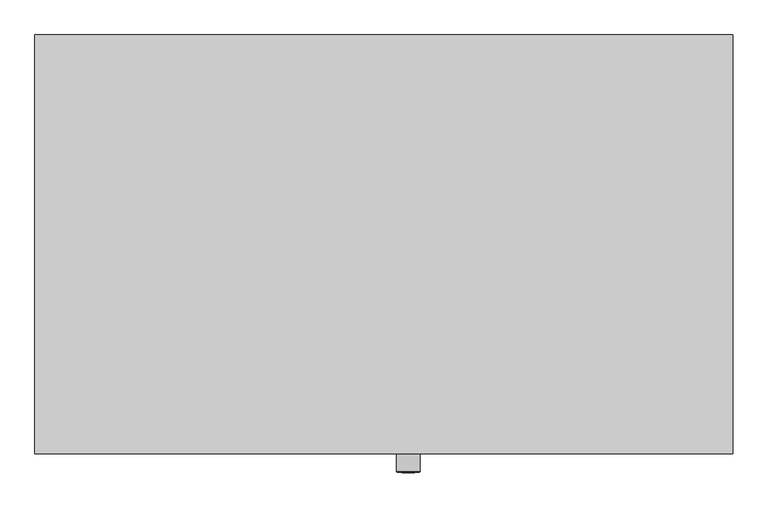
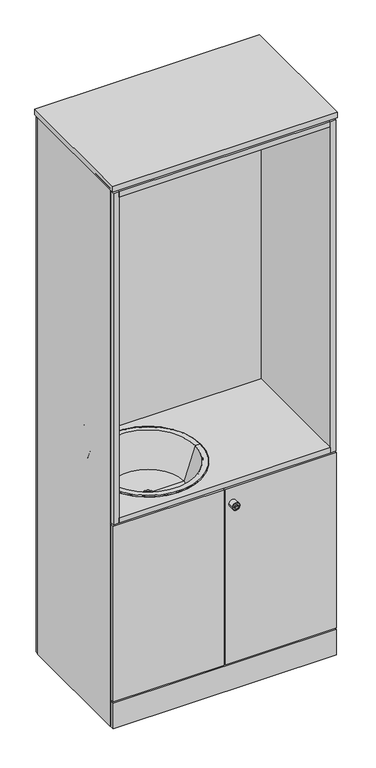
"""IFC4 building model written with IfcOpenShell, lengths in millimetres: furniture geometry, Furniture_Storage_Spacestor_SignatureStoragewall : Teapoint Wakeup."""

import ifcopenshell
import ifcopenshell.guid

model = None  # the IFC model being written
_history = None  # IfcOwnerHistory: only IFC2X3 demands one
_inside = {}  # id of a spatial element -> (the spatial element, [elements in it])
_under = {}  # id of a project, library or spatial element -> (it, [spatial elements below it])
_declared = {}  # id of a project -> (the project, [libraries it declares])
_typed = {}  # id of a type object -> (the type object, [elements of that type])
_made_of = {}  # id of a material, layer set ... -> (it, [elements and type objects made of it])


def new_model(schema):
    """Start an empty IFC model of exactly this schema.

    Asked for "IFC4X3", IfcOpenShell would pick the latest addendum, in which some entities
    have other attributes; the version numbers below select the first issue.
    IFC2X3 requires an IfcOwnerHistory on every rooted entity: one is made here for all.
    """
    global model, _history
    if schema == "IFC4X3":
        model = ifcopenshell.file(schema_version=(4, 3, 0, 0))
    else:
        model = ifcopenshell.file(schema=schema)
    _inside.clear()
    _under.clear()
    _declared.clear()
    _typed.clear()
    _made_of.clear()
    _history = None
    if model.schema == "IFC2X3":
        org = make("IfcOrganization", Name="unknown")
        user = make(
            "IfcPersonAndOrganization",
            ThePerson=make("IfcPerson", FamilyName="unknown"),
            TheOrganization=org,
        )
        app = make(
            "IfcApplication",
            ApplicationDeveloper=org,
            Version="unknown",
            ApplicationFullName="unknown",
            ApplicationIdentifier="unknown",
        )
        _history = make(
            "IfcOwnerHistory",
            OwningUser=user,
            OwningApplication=app,
            ChangeAction="ADDED",
            CreationDate=0,
        )
    return model


def make(cls, **values):
    """One entity of the class cls with the attributes given. An attribute that is None is left unset."""
    return model.create_entity(
        cls, **{name: value for name, value in values.items() if value is not None}
    )


def rooted(cls, **values):
    """An entity with a GlobalId (a new one), such as an element, a storey or a relation."""
    return make(cls, GlobalId=ifcopenshell.guid.new(), OwnerHistory=_history, **values)


def si_unit(unit_type, name, prefix=None):
    """IfcSIUnit, for example si_unit("LENGTHUNIT", "METRE", prefix="MILLI")."""
    return make("IfcSIUnit", UnitType=unit_type, Prefix=prefix, Name=name)


def assignment(units):
    """IfcUnitAssignment: the units of a project."""
    return None if units is None else make("IfcUnitAssignment", Units=units)


def point(xyz):
    """IfcCartesianPoint."""
    return None if xyz is None else make("IfcCartesianPoint", Coordinates=xyz)


def direction(xyz):
    """IfcDirection."""
    return None if xyz is None else make("IfcDirection", DirectionRatios=xyz)


def frame(location, z_axis=None, x_axis=None):
    """IfcAxis2Placement3D, a coordinate frame: its origin and axes. An axis left out is left unset."""
    return make(
        "IfcAxis2Placement3D",
        Location=point(location),
        Axis=direction(z_axis),
        RefDirection=direction(x_axis),
    )


def frame_2d(location, x_axis=None):
    """IfcAxis2Placement2D, a coordinate frame in the plane: its origin and x axis."""
    return make(
        "IfcAxis2Placement2D", Location=point(location), RefDirection=direction(x_axis)
    )


def origin():
    """The frame at (0, 0, 0) with its axes left unset."""
    return frame((0.0, 0.0, 0.0))


def origin_with_axes():
    """The frame at (0, 0, 0) with the z axis (0, 0, 1) and the x axis (1, 0, 0) written out."""
    return frame((0.0, 0.0, 0.0), z_axis=(0.0, 0.0, 1.0), x_axis=(1.0, 0.0, 0.0))


def place(relative_to, where):
    """IfcLocalPlacement: puts the frame where relative to a parent placement (None: the world)."""
    return make(
        "IfcLocalPlacement", PlacementRelTo=relative_to, RelativePlacement=where
    )


def context(
    kind, dimensions, precision=None, world=None, true_north=None, identifier=None
):
    """IfcGeometricRepresentationContext, for example the 3D "Model" context."""
    return make(
        "IfcGeometricRepresentationContext",
        ContextIdentifier=identifier,
        ContextType=kind,
        CoordinateSpaceDimension=dimensions,
        Precision=precision,
        WorldCoordinateSystem=world,
        TrueNorth=true_north,
    )


def project(units=None, contexts=None):
    """IfcProject with its units and contexts."""
    return rooted(
        "IfcProject",
        Name="project",
        RepresentationContexts=contexts,
        UnitsInContext=assignment(units),
    )


def spatial(cls, under=None, at=None, **own):
    """A site, building, storey or space (cls), placed at a placement, below another one or the project."""
    s = rooted(cls, ObjectPlacement=at, **own)
    if under is not None:
        _under.setdefault(under.id(), (under, []))[1].append(s)
    return s


def polyline(points):
    """IfcPolyline through the points."""
    return make("IfcPolyline", Points=[point(p) for p in points])


def circle_curve(where, radius):
    """IfcCircle in the frame where."""
    return make("IfcCircle", Position=where, Radius=radius)


def ellipse_curve(where, semi_axis1, semi_axis2):
    """IfcEllipse in the frame where."""
    return make(
        "IfcEllipse", Position=where, SemiAxis1=semi_axis1, SemiAxis2=semi_axis2
    )


def trimmed(basis, trim1, trim2, sense, master):
    """IfcTrimmedCurve: the piece of a basis curve between two trims."""
    return make(
        "IfcTrimmedCurve",
        BasisCurve=basis,
        Trim1=trim1,
        Trim2=trim2,
        SenseAgreement=sense,
        MasterRepresentation=master,
    )


def segment(curve, same_sense, transition):
    """IfcCompositeCurveSegment."""
    return make(
        "IfcCompositeCurveSegment",
        Transition=transition,
        SameSense=same_sense,
        ParentCurve=curve,
    )


def composite_curve(segments, self_intersect=None):
    """IfcCompositeCurve: segments joined end to end."""
    return make("IfcCompositeCurve", Segments=segments, SelfIntersect=self_intersect)


def outline(outer, holes=None, kind="AREA"):
    """IfcArbitraryClosedProfileDef: a profile drawn as a closed curve; with holes, ...WithVoids."""
    if holes is None:
        return make("IfcArbitraryClosedProfileDef", ProfileType=kind, OuterCurve=outer)
    return make(
        "IfcArbitraryProfileDefWithVoids",
        ProfileType=kind,
        OuterCurve=outer,
        InnerCurves=holes,
    )


def extrude(swept, where, along, depth):
    """IfcExtrudedAreaSolid: the profile swept, set in the frame where, extruded along a direction by depth."""
    return make(
        "IfcExtrudedAreaSolid",
        SweptArea=swept,
        Position=where,
        ExtrudedDirection=direction(along),
        Depth=depth,
    )


def shape(context_of_items, identifier, shape_type, items):
    """IfcShapeRepresentation: the items that make up one representation, for example the "Body"."""
    return make(
        "IfcShapeRepresentation",
        ContextOfItems=context_of_items,
        RepresentationIdentifier=identifier,
        RepresentationType=shape_type,
        Items=items,
    )


def source(mapping_origin, context_of_items, identifier, shape_type, items):
    """IfcRepresentationMap: a shape defined once, which mapped items show again and again."""
    return make(
        "IfcRepresentationMap",
        MappingOrigin=mapping_origin,
        MappedRepresentation=shape(context_of_items, identifier, shape_type, items),
    )


def transform(
    local_origin,
    x_axis=None,
    y_axis=None,
    z_axis=None,
    scale=None,
    scale2=None,
    scale3=None,
    uniform=True,
):
    """IfcCartesianTransformationOperator3D, or its non-uniform kind. x_axis, y_axis, z_axis: its Axis1, 2, 3."""
    if uniform:
        return make(
            "IfcCartesianTransformationOperator3D",
            Axis1=direction(x_axis),
            Axis2=direction(y_axis),
            LocalOrigin=point(local_origin),
            Scale=scale,
            Axis3=direction(z_axis),
        )
    return make(
        "IfcCartesianTransformationOperator3DnonUniform",
        Axis1=direction(x_axis),
        Axis2=direction(y_axis),
        LocalOrigin=point(local_origin),
        Scale=scale,
        Axis3=direction(z_axis),
        Scale2=scale2,
        Scale3=scale3,
    )


def mapped(mapping_source, mapping_target):
    """IfcMappedItem: shows the shape of a source again, moved by a transform."""
    return make(
        "IfcMappedItem", MappingSource=mapping_source, MappingTarget=mapping_target
    )


def made_of(thing, what):
    """Note that an element or type object is made of a material, layer set ...; save() writes the relation."""
    if what is not None:
        _made_of.setdefault(what.id(), (what, []))[1].append(thing)
    return thing


def element(
    cls,
    number,
    at=None,
    inside=None,
    cuts=None,
    type_object=None,
    material=None,
    context=None,
    identifier="Body",
    shape_type=None,
    held_by="IfcProductDefinitionShape",
    body=None,
    shapes=None,
    **own,
):
    """One element of the class cls, such as IfcWall. Its Tag is "e" and its number.

    at: its placement. inside: the storey or other place that contains it. cuts: it is an
    opening in that element (IfcRelVoidsElement). A single representation is given by context,
    identifier, shape_type and body (its items); several are given by shapes. held_by: the class
    of the entity that holds the representations. save() writes the other relations.
    """
    e = rooted(cls, Tag="e%d" % number, ObjectPlacement=at, **own)
    if body is not None:
        shapes = [shape(context, identifier, shape_type, body)]
    if shapes is not None:
        e.Representation = make(held_by, Representations=shapes)
    if inside is not None:
        _inside.setdefault(inside.id(), (inside, []))[1].append(e)
    if cuts is not None:
        rooted(
            "IfcRelVoidsElement", RelatingBuildingElement=cuts, RelatedOpeningElement=e
        )
    if type_object is not None:
        _typed.setdefault(type_object.id(), (type_object, []))[1].append(e)
    return made_of(e, material)


def aggregate(whole, parts):
    """IfcRelAggregates: a whole, such as a stair, and the parts it consists of."""
    return rooted("IfcRelAggregates", RelatingObject=whole, RelatedObjects=parts)


def save(model, path):
    """Write the relations noted so far, then the file.

    IfcRelAggregates (storeys below a building ...), IfcRelContainedInSpatialStructure (elements
    in a storey), IfcRelDefinesByType, IfcRelAssociatesMaterial and IfcRelDeclares: one each for
    every whole, place, type object, material and project.
    """
    for whole, parts in _under.values():
        aggregate(whole, parts)
    for where, things in _inside.values():
        rooted(
            "IfcRelContainedInSpatialStructure",
            RelatedElements=things,
            RelatingStructure=where,
        )
    for kind, things in _typed.values():
        rooted("IfcRelDefinesByType", RelatedObjects=things, RelatingType=kind)
    for what, things in _made_of.values():
        rooted("IfcRelAssociatesMaterial", RelatedObjects=things, RelatingMaterial=what)
    for by, libraries in _declared.values():
        rooted("IfcRelDeclares", RelatingContext=by, RelatedDefinitions=libraries)
    model.write(path)


def plane_surface(at):
    """IfcPlane: the flat surface through the origin of the frame at, square to its z axis."""
    return make("IfcPlane", Position=at)


def cylinder_surface(at, radius):
    """IfcCylindricalSurface: all points at the distance radius from the z axis of the frame at."""
    return make("IfcCylindricalSurface", Position=at, Radius=radius)


def revolved_surface(curve, axis_point, axis_direction):
    """IfcSurfaceOfRevolution: the curve turned about the line through axis_point along axis_direction."""
    return make(
        "IfcSurfaceOfRevolution",
        SweptCurve=make("IfcArbitraryOpenProfileDef", ProfileType="CURVE", Curve=curve),
        AxisPosition=make("IfcAxis1Placement", Location=point(axis_point), Axis=direction(axis_direction)),
    )


def advanced_brep(points, edges, surfaces, faces):
    """IfcAdvancedBrep: a solid bounded by faces that lie on surfaces and meet in shared edges.

    An edge is (start, end): straight between two places in points (the first is 0);
    or (start, end, curve); or (start, end, curve, False) where it runs against its curve.
    A face is (place in surfaces, loops), or (place, loops, False) where it looks against
    its surface's normal. A loop lists edges by number (the first is 1), with a minus sign
    where the edge is run from its end to its start. The first loop is the outer one.
    """
    corners = [point(p) for p in points]
    vertices = [make("IfcVertexPoint", VertexGeometry=c) for c in corners]
    made = []
    for start, end, *more in edges:
        made.append(
            make(
                "IfcEdgeCurve",
                EdgeStart=vertices[start],
                EdgeEnd=vertices[end],
                EdgeGeometry=more[0] if more else make("IfcPolyline", Points=[corners[start], corners[end]]),
                SameSense=more[1] if len(more) > 1 else True,
            )
        )
    hull = []
    for where, loops, *sense in faces:
        bounds = []
        for j, loop in enumerate(loops):
            ring = [make("IfcOrientedEdge", EdgeElement=made[abs(k) - 1], Orientation=k > 0) for k in loop]
            bounds.append(
                make(
                    "IfcFaceOuterBound" if j == 0 else "IfcFaceBound",
                    Bound=make("IfcEdgeLoop", EdgeList=ring),
                    Orientation=True,
                )
            )
        hull.append(make("IfcAdvancedFace", Bounds=bounds, FaceSurface=surfaces[where], SameSense=sense[0] if sense else True))
    return make("IfcAdvancedBrep", Outer=make("IfcClosedShell", CfsFaces=hull))


def furniture_b352a6ba(model_context):
    return source(origin(), model_context, "Body", "SolidModel", [
        extrude(outline(polyline([(996.5, 559.0), (3.5, 559.0), (3.5, 577.0), (996.5, 577.0), (996.5, 559.0)])), origin_with_axes(), (0.0, 0.0, 1.0), 2518.0),
        extrude(outline(polyline([(996.5, -18.0), (3.5, -18.0), (3.5, 0.0), (996.5, 0.0), (996.5, -18.0)])), origin_with_axes(), (0.0, 0.0, 1.0), 118.0),
        extrude(outline(polyline([(1000.0, -20.5), (0.0, -20.5), (0.0, 579.5), (1000.0, 579.5), (1000.0, -20.5)])), frame((0.0, 0.0, 2525.0), z_axis=(0.0, 0.0, 1.0), x_axis=(1.0, 0.0, 0.0)), (0.0, 0.0, 1.0), 25.5),
        extrude(outline(polyline([(1000.0, 0.0), (989.0, 0.0), (989.0, 559.0), (1000.0, 559.0), (1000.0, 0.0)])), origin_with_axes(), (0.0, 0.0, 1.0), 2532.5),
        extrude(outline(polyline([(11.0, 0.0), (0.0, 0.0), (0.0, 559.0), (11.0, 559.0), (11.0, 0.0)])), origin_with_axes(), (0.0, 0.0, 1.0), 2532.5),
        extrude(outline(polyline([(989.0, 0.0), (11.0, 0.0), (11.0, 30.0), (989.0, 30.0), (989.0, 0.0)])), frame((0.0, 0.0, 942.5), z_axis=(0.0, 0.0, 1.0), x_axis=(1.0, 0.0, 0.0)), (0.0, 0.0, 1.0), 22.0),
        extrude(outline(polyline([(989.0, 0.0), (11.0, 0.0), (11.0, 559.0), (989.0, 559.0), (989.0, 0.0)])), frame((0.0, 0.0, 110.5), z_axis=(0.0, 0.0, 1.0), x_axis=(1.0, 0.0, 0.0)), (0.0, 0.0, 1.0), 22.0),
        extrude(outline(polyline([(989.0, 0.0), (11.0, 0.0), (11.0, 559.0), (989.0, 559.0), (989.0, 0.0)])), frame((0.0, 0.0, 2510.0), z_axis=(0.0, 0.0, 1.0), x_axis=(1.0, 0.0, 0.0)), (0.0, 0.0, 1.0), 22.0),
        advanced_brep(
        [(332.5958962, 249.0, 832.5), (292.5958962, 249.0, 832.5), (149.3768499, 249.0, 832.5), (475.8149424, 249.0, 832.5), (472.2083379, 249.0, 837.5), (152.9834544, 249.0, 837.5), (292.5958962, 249.0, 837.5), (332.5958962, 249.0, 837.5), (522.0851879, 249.0, 987.5), (103.1066044, 249.0, 987.5), (544.5958962, 249.0, 987.5), (80.5958962, 249.0, 987.5), (547.5958962, 249.0, 984.5), (77.5958962, 249.0, 984.5), (547.5958962, 249.0, 982.5), (77.5958962, 249.0, 982.5), (525.6917923, 249.0, 982.5), (99.5, 249.0, 982.5)],
        [
            (0, 1, circle_curve(frame((312.5958962, 249.0, 832.5), z_axis=(0.0, 0.0, 1.0), x_axis=(-1.0, 0.0, 0.0)), 20.0)),
            (1, 2),
            (2, 3, circle_curve(frame((312.5958962, 249.0, 832.5), z_axis=(0.0, 0.0, -1.0), x_axis=(-1.0, 0.0, 0.0)), 163.2190462)),
            (3, 0),
            (1, 0, circle_curve(frame((312.5958962, 249.0, 832.5), z_axis=(0.0, 0.0, 1.0), x_axis=(-1.0, 0.0, 0.0)), 20.0)),
            (3, 2, circle_curve(frame((312.5958962, 249.0, 832.5), z_axis=(0.0, 0.0, -1.0), x_axis=(-1.0, 0.0, 0.0)), 163.2190462)),
            (4, 5, circle_curve(frame((312.5958962, 249.0, 837.5), z_axis=(0.0, 0.0, 1.0), x_axis=(-1.0, 0.0, 0.0)), 159.6124418)),
            (5, 6),
            (6, 7, circle_curve(frame((312.5958962, 249.0, 837.5), z_axis=(0.0, 0.0, -1.0), x_axis=(-1.0, 0.0, 0.0)), 20.0)),
            (7, 4),
            (5, 4, circle_curve(frame((312.5958962, 249.0, 837.5), z_axis=(0.0, 0.0, 1.0), x_axis=(-1.0, 0.0, 0.0)), 159.6124418)),
            (7, 6, circle_curve(frame((312.5958962, 249.0, 837.5), z_axis=(0.0, 0.0, -1.0), x_axis=(-1.0, 0.0, 0.0)), 20.0)),
            (8, 9, circle_curve(frame((312.5958962, 249.0, 987.5), z_axis=(0.0, 0.0, 1.0), x_axis=(-1.0, 0.0, 0.0)), 209.4892917)),
            (9, 5),
            (4, 8),
            (9, 8, circle_curve(frame((312.5958962, 249.0, 987.5), z_axis=(0.0, 0.0, 1.0), x_axis=(-1.0, 0.0, 0.0)), 209.4892917)),
            (10, 11, circle_curve(frame((312.5958962, 249.0, 987.5), z_axis=(0.0, 0.0, 1.0), x_axis=(-1.0, 0.0, 0.0)), 232.0)),
            (11, 9),
            (8, 10),
            (11, 10, circle_curve(frame((312.5958962, 249.0, 987.5), z_axis=(0.0, 0.0, 1.0), x_axis=(-1.0, 0.0, 0.0)), 232.0)),
            (12, 13, circle_curve(frame((312.5958962, 249.0, 984.5), z_axis=(0.0, 0.0, 1.0), x_axis=(-1.0, 0.0, 0.0)), 235.0)),
            (13, 11, circle_curve(frame((80.5958962, 249.0, 984.5), z_axis=(0.0, 1.0, 0.0), x_axis=(1.0, 0.0, 0.0)), 3.0)),
            (10, 12, circle_curve(frame((544.5958962, 249.0, 984.5), z_axis=(0.0, 1.0, 0.0), x_axis=(-1.0, 0.0, 0.0)), 3.0)),
            (13, 12, circle_curve(frame((312.5958962, 249.0, 984.5), z_axis=(0.0, 0.0, 1.0), x_axis=(-1.0, 0.0, 0.0)), 235.0)),
            (14, 15, circle_curve(frame((312.5958962, 249.0, 982.5), z_axis=(0.0, 0.0, 1.0), x_axis=(-1.0, 0.0, 0.0)), 235.0)),
            (15, 13),
            (12, 14),
            (15, 14, circle_curve(frame((312.5958962, 249.0, 982.5), z_axis=(0.0, 0.0, 1.0), x_axis=(-1.0, 0.0, 0.0)), 235.0)),
            (16, 17, circle_curve(frame((312.5958962, 249.0, 982.5), z_axis=(0.0, 0.0, 1.0), x_axis=(-1.0, 0.0, 0.0)), 213.0958962)),
            (17, 15),
            (14, 16),
            (17, 16, circle_curve(frame((312.5958962, 249.0, 982.5), z_axis=(0.0, 0.0, 1.0), x_axis=(-1.0, 0.0, 0.0)), 213.0958962)),
            (2, 17),
            (16, 3),
            (6, 1),
            (0, 7),
        ],
        [
            plane_surface(frame((312.5958962, 249.0, 832.5), z_axis=(0.0, 0.0, -1.0), x_axis=(-1.0, 0.0, 0.0))),
            plane_surface(frame((312.5958962, 249.0, 837.5), z_axis=(0.0, 0.0, 1.0), x_axis=(-1.0, 0.0, 0.0))),
            revolved_surface(polyline([(152.9834544, 249.0, 837.5), (103.1066044, 249.0, 987.5)]), (312.5958962, 249.0, 2979.9144888), (0.0, 0.0, -1.0)),
            plane_surface(frame((312.5958962, 249.0, 987.5), z_axis=(0.0, 0.0, 1.0), x_axis=(-1.0, 0.0, 0.0))),
            revolved_surface(trimmed(ellipse_curve(frame((80.5958962, 249.0, 984.5), z_axis=(0.0, -1.0, 0.0), x_axis=(1.0, 0.0, 0.0)), 3.0, 3.0), [point((80.5958962, 249.0, 987.5))], [point((77.5958962, 249.0, 984.5))], True, "CARTESIAN"), (312.5958962, 249.0, 2979.9144888), (0.0, 0.0, -1.0)),
            cylinder_surface(frame((312.5958962, 249.0, 2979.9144888), z_axis=(0.0, 0.0, -1.0), x_axis=(-1.0, 0.0, 0.0)), 235.0),
            plane_surface(frame((312.5958962, 249.0, 982.5), z_axis=(0.0, 0.0, -1.0), x_axis=(-1.0, 0.0, 0.0))),
            revolved_surface(polyline([(99.5, 249.0, 982.5), (149.3768499, 249.0, 832.5)]), (312.5958962, 249.0, 2979.9144888), (0.0, 0.0, -1.0)),
            revolved_surface(polyline([(292.5958962, 249.0, 832.5), (292.5958962, 249.0, 837.5)]), (312.5958962, 249.0, 2979.9144888), (0.0, 0.0, -1.0)),
        ],
        [
            (0, [[1, 2, 3, 4]]),
            (0, [[5, -4, 6, -2]]),
            (1, [[7, 8, 9, 10]]),
            (1, [[11, -10, 12, -8]]),
            (2, [[13, 14, -7, 15]]),
            (2, [[16, -15, -11, -14]]),
            (3, [[17, 18, -13, 19]]),
            (3, [[20, -19, -16, -18]]),
            (4, [[21, 22, -17, 23]]),
            (4, [[24, -23, -20, -22]]),
            (5, [[25, 26, -21, 27]]),
            (5, [[28, -27, -24, -26]]),
            (6, [[29, 30, -25, 31]]),
            (6, [[32, -31, -28, -30]]),
            (7, [[-3, 33, -29, 34]]),
            (7, [[-6, -34, -32, -33]]),
            (8, [[-9, 35, -1, 36]]),
            (8, [[-12, -36, -5, -35]]),
        ],
    ),
        extrude(outline(composite_curve([segment(trimmed(circle_curve(frame_2d((51.6443162, 298.4535162)), 20.0), [point((38.4905847, 313.5193499))], [point((54.012555, 318.3128073))], False, "CARTESIAN"), True, "CONTINUOUS"), segment(trimmed(circle_curve(frame_2d((65.0185837, 324.0001089)), 12.3886265), [point((54.012555, 318.3128073))], [point((66.6155314, 311.7148402))], True, "CARTESIAN"), True, "CONTINUOUS"), segment(trimmed(circle_curve(frame_2d((51.6443162, 298.4535162)), 20.0), [point((66.6155314, 311.7148402))], [point((71.5144928, 296.1784156))], False, "CARTESIAN"), True, "CONTINUOUS"), segment(trimmed(circle_curve(frame_2d((76.9912793, 285.0661306)), 12.3886265), [point((71.5144928, 296.1784156))], [point((64.7256464, 283.3247753))], True, "CARTESIAN"), True, "CONTINUOUS"), segment(trimmed(circle_curve(frame_2d((51.6443162, 298.4535162)), 20.0), [point((64.7256464, 283.3247753))], [point((49.0219776, 278.626178))], False, "CARTESIAN"), True, "CONTINUOUS"), segment(trimmed(circle_curve(frame_2d((37.9440265, 273.0802726)), 12.3886265), [point((49.0219776, 278.626178))], [point((36.50452, 285.3849826))], True, "CARTESIAN"), True, "CONTINUOUS"), segment(trimmed(circle_curve(frame_2d((51.6443162, 298.4535162)), 20.0), [point((36.50452, 285.3849826))], [point((31.8126259, 301.0427361))], False, "CARTESIAN"), True, "CONTINUOUS"), segment(trimmed(circle_curve(frame_2d((26.1858747, 312.0798434)), 12.3886265), [point((31.8126259, 301.0427361))], [point((38.4905847, 313.5193499))], True, "CARTESIAN"), True, "CONTINUOUS")], self_intersect=False)), frame((0.0, 0.0, 982.5), z_axis=(0.0, 0.0, 1.0), x_axis=(1.0, 0.0, 0.0)), (0.0, 0.0, 1.0), 40.0),
        advanced_brep(
        [(59.2290135, 342.8808735, 982.5), (76.8879654, 333.4914422, 982.5), (59.2290135, 342.8808735, 1182.5), (76.8879654, 333.4914422, 1182.5), (129.864821, 305.3231485, 1182.5), (147.5237728, 295.9337172, 1182.5), (147.5237728, 295.9337172, 1142.5), (129.864821, 305.3231485, 1142.5)],
        [
            (0, 1, circle_curve(frame((68.0584895, 338.1861579, 982.5), z_axis=(0.0, 0.0, -1.0), x_axis=(0.8829475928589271, -0.46947156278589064, 0.0)), 10.0)),
            (1, 0, circle_curve(frame((68.0584895, 338.1861579, 982.5), z_axis=(0.0, 0.0, -1.0), x_axis=(0.8829475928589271, -0.46947156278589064, 0.0)), 10.0)),
            (0, 2),
            (2, 3, circle_curve(frame((68.0584895, 338.1861579, 1182.5), z_axis=(0.0, 0.0, -1.0), x_axis=(0.8829475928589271, -0.46947156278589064, 0.0)), 10.0)),
            (3, 1),
            (3, 2, circle_curve(frame((68.0584895, 338.1861579, 1182.5), z_axis=(0.0, 0.0, -1.0), x_axis=(0.8829475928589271, -0.46947156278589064, 0.0)), 10.0)),
            (4, 3, circle_curve(frame((103.3763932, 319.4072953, 1182.5), z_axis=(-0.46947156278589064, -0.8829475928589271, 0.0), x_axis=(-0.8829475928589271, 0.46947156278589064, 0.0)), 30.0)),
            (2, 5, circle_curve(frame((103.3763932, 319.4072953, 1182.5), z_axis=(0.46947156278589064, 0.8829475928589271, 0.0), x_axis=(-0.8829475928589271, 0.46947156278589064, 0.0)), 50.0)),
            (5, 4, circle_curve(frame((138.6942969, 300.6284328, 1182.5), z_axis=(0.0, 0.0, 1.0000000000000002), x_axis=(-0.8829475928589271, 0.46947156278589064, 0.0)), 10.0)),
            (4, 5, circle_curve(frame((138.6942969, 300.6284328, 1182.5), z_axis=(0.0, 0.0, 1.0000000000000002), x_axis=(-0.8829475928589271, 0.46947156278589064, 0.0)), 10.0)),
            (6, 7, circle_curve(frame((138.6942969, 300.6284328, 1142.5), z_axis=(0.0, 0.0, -1.0), x_axis=(-0.882947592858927, 0.46947156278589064, 0.0)), 10.0)),
            (7, 6, circle_curve(frame((138.6942969, 300.6284328, 1142.5), z_axis=(0.0, 0.0, -1.0), x_axis=(-0.882947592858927, 0.46947156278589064, 0.0)), 10.0)),
            (5, 6),
            (7, 4),
        ],
        [
            plane_surface(frame((-20.6254098, 171.3960015, 982.5), z_axis=(0.0, 0.0, -1.0000000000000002), x_axis=(-0.46947156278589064, -0.8829475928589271, 0.0))),
            cylinder_surface(frame((68.0584895, 338.1861579, 982.5), z_axis=(0.0, 0.0, -1.0000000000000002), x_axis=(0.8829475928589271, -0.46947156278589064, 0.0)), 10.0),
            revolved_surface(trimmed(ellipse_curve(frame((68.0584895, 338.1861579, 1182.5), z_axis=(0.0, 0.0, -1.0000000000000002), x_axis=(0.8829475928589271, -0.46947156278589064, 0.0)), 10.0, 10.0), [point((59.2290135, 342.8808735, 1182.5))], [point((76.8879654, 333.4914422, 1182.5))], True, "CARTESIAN"), (14.6924939, 152.617139, 1182.5), (0.46947156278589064, 0.8829475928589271, 0.0)),
            revolved_surface(trimmed(ellipse_curve(frame((68.0584895, 338.1861579, 1182.5), z_axis=(0.0, 0.0, -1.0000000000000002), x_axis=(0.8829475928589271, -0.46947156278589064, 0.0)), 10.0, 10.0), [point((76.8879654, 333.4914422, 1182.5))], [point((59.2290135, 342.8808735, 1182.5))], True, "CARTESIAN"), (14.6924939, 152.617139, 1182.5), (0.46947156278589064, 0.8829475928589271, 0.0)),
            plane_surface(frame((50.0103976, 133.8382765, 1142.5), z_axis=(0.0, 0.0, -1.0), x_axis=(-0.46947156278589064, -0.882947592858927, 0.0))),
            cylinder_surface(frame((138.6942969, 300.6284328, 1182.5), z_axis=(0.0, 0.0, 1.0), x_axis=(-0.882947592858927, 0.46947156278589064, 0.0)), 10.0),
        ],
        [
            (0, [[1, 2]]),
            (1, [[-1, 3, 4, 5]]),
            (1, [[-2, -5, 6, -3]]),
            (2, [[7, -4, 8, 9]]),
            (3, [[-8, -6, -7, 10]]),
            (4, [[11, 12]]),
            (5, [[-9, 13, -12, 14]]),
            (5, [[-10, -14, -11, -13]]),
        ],
    ),
        extrude(outline(polyline([(970.5, 516.0), (970.5, -18.0), (29.5, -18.0), (29.5, 516.0), (970.5, 516.0)]), holes=[composite_curve([segment(trimmed(circle_curve(frame_2d((312.6, 249.0)), 213.1), [point((99.5, 249.0))], [point((525.7, 249.0))], True, "CARTESIAN"), True, "CONTINUOUS"), segment(trimmed(circle_curve(frame_2d((312.6, 249.0)), 213.1), [point((525.7, 249.0))], [point((99.5, 249.0))], True, "CARTESIAN"), True, "CONTINUOUS")], self_intersect=False)]), frame((0.0, 0.0, 957.5), z_axis=(0.0, 0.0, 1.0), x_axis=(1.0, 0.0, 0.0)), (0.0, 0.0, 1.0), 25.0),
        extrude(outline(polyline([(29.5, -18.0), (4.5, -18.0), (4.5, 516.0), (29.5, 516.0), (29.5, -18.0)])), frame((0.0, 0.0, 957.0), z_axis=(0.0, 0.0, 1.0), x_axis=(1.0, 0.0, 0.0)), (0.0, 0.0, 1.0), 1559.0),
        extrude(outline(polyline([(995.5, -18.0), (970.5, -18.0), (970.5, 516.0), (995.5, 516.0), (995.5, -18.0)])), frame((0.0, 0.0, 957.0), z_axis=(0.0, 0.0, 1.0), x_axis=(1.0, 0.0, 0.0)), (0.0, 0.0, 1.0), 1559.0),
        extrude(outline(polyline([(995.5, 516.0), (4.5, 516.0), (4.5, 534.0), (995.5, 534.0), (995.5, 516.0)])), frame((0.0, 0.0, 957.0), z_axis=(0.0, 0.0, 1.0), x_axis=(1.0, 0.0, 0.0)), (0.0, 0.0, 1.0), 1559.0),
        extrude(outline(polyline([(970.5, -18.0), (29.5, -18.0), (29.5, 516.0), (970.5, 516.0), (970.5, -18.0)])), frame((0.0, 0.0, 2490.5), z_axis=(0.0, 0.0, 1.0), x_axis=(1.0, 0.0, 0.0)), (0.0, 0.0, 1.0), 25.0),
        extrude(outline(polyline([(3.5, -18.0), (3.5, 0.0), (496.5, 0.0), (496.5, -18.0), (3.5, -18.0)])), frame((0.0, 0.0, 125.0), z_axis=(0.0, 0.0, 1.0), x_axis=(1.0, 0.0, 0.0)), (0.0, 0.0, 1.0), 825.0),
        extrude(outline(polyline([(996.5, -18.0), (503.5, -18.0), (503.5, 0.0), (996.5, 0.0), (996.5, -18.0)])), frame((0.0, 0.0, 125.0), z_axis=(0.0, 0.0, 1.0), x_axis=(1.0, 0.0, 0.0)), (0.0, 0.0, 1.0), 825.0),
        advanced_brep(
        [(552.0, -45.3116344, 875.0), (518.0, -45.3116344, 875.0), (518.0, -18.0, 875.0), (552.0, -18.0, 875.0), (535.0, -18.0, 875.0), (543.9747319, -46.3150077, 875.0), (526.0252681, -46.3150077, 875.0), (519.0033734, -46.3150077, 875.0), (550.9966266, -46.3150077, 875.0), (543.9747319, -47.4703043, 875.0), (526.0252681, -47.4703043, 875.0), (539.8245152, -47.4703043, 875.0), (539.8245152, -47.4703043, 873.6366562), (530.1754848, -47.4703043, 873.6366562), (530.1754848, -47.4703043, 875.0), (530.1754848, -47.4703043, 876.3633438), (539.8245152, -47.4703043, 876.3633438), (530.1754848, -27.8604291, 873.6366562), (539.8245152, -27.8604291, 873.6366562), (539.8245152, -27.8604291, 876.3633438), (530.1754848, -27.8604291, 876.3633438)],
        [
            (0, 1, circle_curve(frame((535.0, -45.3116344, 875.0), z_axis=(0.0, 1.0, 0.0), x_axis=(-1.0, 0.0, 0.0)), 17.0)),
            (1, 2),
            (2, 3, circle_curve(frame((535.0, -18.0, 875.0), z_axis=(0.0, -1.0, 0.0), x_axis=(-1.0, 0.0, 0.0)), 17.0)),
            (3, 0),
            (1, 0, circle_curve(frame((535.0, -45.3116344, 875.0), z_axis=(0.0, 1.0, 0.0), x_axis=(-1.0, 0.0, 0.0)), 17.0)),
            (3, 2, circle_curve(frame((535.0, -18.0, 875.0), z_axis=(0.0, -1.0, 0.0), x_axis=(-1.0, 0.0, 0.0)), 17.0)),
            (2, 4),
            (4, 3),
            (5, 6, circle_curve(frame((535.0, -46.3150077, 875.0), z_axis=(0.0, 1.0, 0.0), x_axis=(-1.0, 0.0, 0.0)), 8.9747319)),
            (6, 7),
            (7, 8, circle_curve(frame((535.0, -46.3150077, 875.0), z_axis=(0.0, -1.0, 0.0), x_axis=(-1.0, 0.0, 0.0)), 15.9966266)),
            (8, 5),
            (6, 5, circle_curve(frame((535.0, -46.3150077, 875.0), z_axis=(0.0, 1.0, 0.0), x_axis=(-1.0, 0.0, 0.0)), 8.9747319)),
            (8, 7, circle_curve(frame((535.0, -46.3150077, 875.0), z_axis=(0.0, -1.0, 0.0), x_axis=(-1.0, 0.0, 0.0)), 15.9966266)),
            (0, 8, circle_curve(frame((550.9966266, -45.3116344, 875.0), z_axis=(0.0, 0.0, -1.0), x_axis=(1.0, 0.0, 0.0)), 1.0033734)),
            (7, 1, circle_curve(frame((519.0033734, -45.3116344, 875.0), z_axis=(0.0, 0.0, -1.0), x_axis=(-1.0, 0.0, 0.0)), 1.0033734)),
            (5, 9),
            (9, 10, circle_curve(frame((535.0, -47.4703043, 875.0), z_axis=(0.0, 1.0, 0.0), x_axis=(-1.0, 0.0, 0.0)), 8.9747319)),
            (10, 6),
            (10, 9, circle_curve(frame((535.0, -47.4703043, 875.0), z_axis=(0.0, 1.0, 0.0), x_axis=(-1.0, 0.0, 0.0)), 8.9747319)),
            (9, 11),
            (11, 12),
            (12, 13),
            (13, 14),
            (14, 10),
            (14, 15),
            (15, 16),
            (16, 11),
            (17, 18),
            (18, 19),
            (19, 20),
            (20, 17),
            (17, 13),
            (12, 18),
            (16, 19),
            (15, 20),
        ],
        [
            cylinder_surface(frame((535.0, -2627.0581012, 875.0), z_axis=(0.0, -1.0, 0.0), x_axis=(-1.0, 0.0, 0.0)), 17.0),
            plane_surface(frame((535.0, -18.0, 875.0), z_axis=(0.0, 1.0, 0.0), x_axis=(-1.0, 0.0, 0.0))),
            plane_surface(frame((535.0, -46.3150077, 875.0), z_axis=(0.0, -1.0, 0.0), x_axis=(-1.0, 0.0, 0.0))),
            revolved_surface(trimmed(ellipse_curve(frame((519.0033734, -45.3116344, 875.0), z_axis=(0.0, 0.0, 1.0), x_axis=(-1.0, 0.0, 0.0)), 1.0033734, 1.0033734), [point((518.0, -45.3116344, 875.0))], [point((519.0033734, -46.3150077, 875.0))], True, "CARTESIAN"), (535.0, -2627.0581012, 875.0), (0.0, -1.0, 0.0)),
            cylinder_surface(frame((535.0, -2627.0581012, 875.0), z_axis=(0.0, -1.0, 0.0), x_axis=(-1.0, 0.0, 0.0)), 8.9747319),
            plane_surface(frame((535.0, -47.4703043, 875.0), z_axis=(0.0, -1.0, 0.0), x_axis=(-1.0, 0.0, 0.0))),
            plane_surface(frame((539.4565249, -27.8604291, 873.6366562), z_axis=(0.0, -1.0, 0.0), x_axis=(-1.0, 0.0, 0.0))),
            plane_surface(frame((530.1754848, -49.2046383, 873.6366562), z_axis=(0.0, 0.0, 1.0), x_axis=(0.0, 1.0, 0.0))),
            plane_surface(frame((539.8245152, -49.2046383, 873.6366562), z_axis=(-1.0, 0.0, 0.0), x_axis=(0.0, 1.0, 0.0))),
            plane_surface(frame((539.8245152, -49.2046383, 876.3633438), z_axis=(0.0, 0.0, -1.0), x_axis=(0.0, 1.0, 0.0))),
            plane_surface(frame((530.1754848, -49.2046383, 876.3633438), z_axis=(1.0, 0.0, 0.0), x_axis=(0.0, 1.0, 0.0))),
        ],
        [
            (0, [[1, 2, 3, 4]]),
            (0, [[-2, 5, -4, 6]]),
            (1, [[-3, 7, 8]]),
            (1, [[-6, -8, -7]]),
            (2, [[9, 10, 11, 12]]),
            (2, [[-10, 13, -12, 14]]),
            (3, [[-1, 15, -11, 16]]),
            (3, [[-5, -16, -14, -15]]),
            (4, [[-9, 17, 18, 19]]),
            (4, [[-13, -19, 20, -17]]),
            (5, [[-18, 21, 22, 23, 24, 25]]),
            (5, [[-20, -25, 26, 27, 28, -21]]),
            (6, [[29, 30, 31, 32]]),
            (7, [[-29, 33, -23, 34]]),
            (8, [[-30, -34, -22, -28, 35]]),
            (9, [[-31, -35, -27, 36]]),
            (10, [[-32, -36, -26, -24, -33]]),
        ],
    ),
    ])


if __name__ == "__main__":
    model = new_model("IFC4")
    model_context = context("Model", 3, world=origin())
    ifc_project = project(units=[si_unit("LENGTHUNIT", "METRE", prefix="MILLI")], contexts=[model_context])
    site = spatial("IfcSite", under=ifc_project)
    building = spatial("IfcBuilding", under=site)
    placement = place(None, origin())
    furniture_shape = furniture_b352a6ba(model_context)
    element("IfcFurniture", 1, ObjectType="Furniture_Storage_Spacestor_SignatureStoragewall : Teapoint Wakeup", at=placement, inside=building, context=model_context, shape_type="MappedRepresentation", body=[
        mapped(furniture_shape, transform((0.0, 0.0, 0.0), x_axis=(1.0, 0.0, 0.0), y_axis=(0.0, 1.0, 0.0), z_axis=(0.0, 0.0, 1.0))),
    ])
    save(model, "model.ifc")
